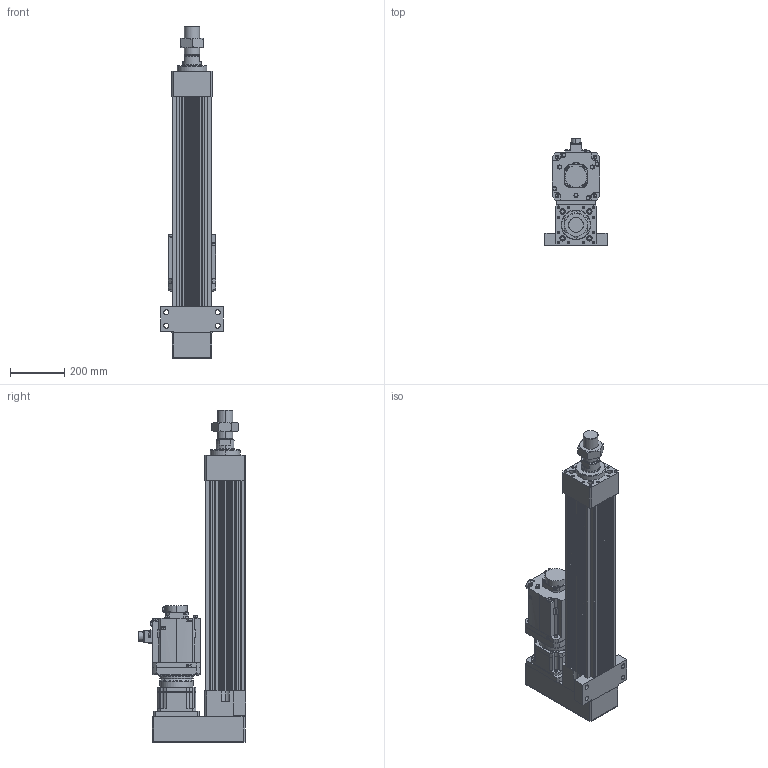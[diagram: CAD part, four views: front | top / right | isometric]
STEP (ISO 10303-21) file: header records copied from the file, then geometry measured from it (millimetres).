
FILE_DESCRIPTION (( 'STEP AP203' ), '1' );
FILE_NAME ('HES150NS(HS)-P500-W050G00-M-FFC.STEP', '2026-06-10T06:39:17', ( 'tms' ), ( '' ), 'SwSTEP 2.0', 'SolidWorks 2013', '' );
FILE_SCHEMA (( 'CONFIG_CONTROL_DESIGN' ));
Length unit declared in the file: millimetre
Products named in the file (9): HES150-P-G142; AB1423; M56X2.0P; HG-SR502B; AB1421; HES150NS(HS)-P500-W050G00-M-FFC; HES150-FFC-500; HES150-M-ROD-500; AB1422
Assembly tree (8 placements, depth 2):
  HES150NS(HS)-P500-W050G00-M-FFC
    HES150-FFC-500
    HES150-M-ROD-500
    M56X2.0P
    HES150-P-G142
    HG-SR502B
    AB1421
    AB1422
    AB1423
Bounding box: 230 x 395.85 x 1226 mm (x, y, z)
Volume: 20930894.6 mm3; surface area: 2160484.9 mm2
Topology: 5 solids, 19 shells, 1536 faces, 4000 edges, 2590 vertices
Faces by surface type: cylinder 714, plane 584, cone 156, bspline 76, torus 6
Entity records: 56036 total; most frequent: CARTESIAN_POINT 16912, DIRECTION 8212, ORIENTED_EDGE 7878, EDGE_CURVE 3961, AXIS2_PLACEMENT_3D 3115, VERTEX_POINT 2590, VECTOR 1982, LINE 1982
